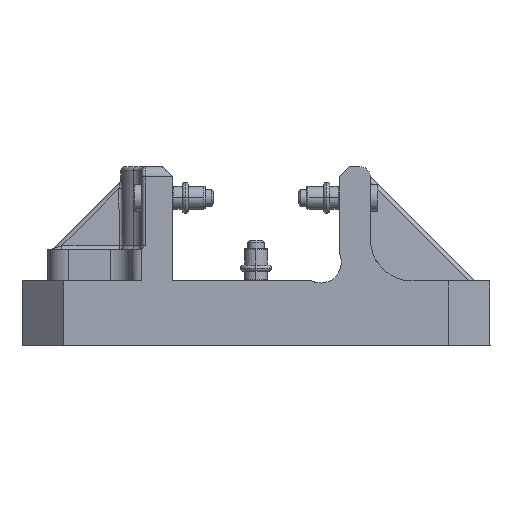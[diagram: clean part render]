
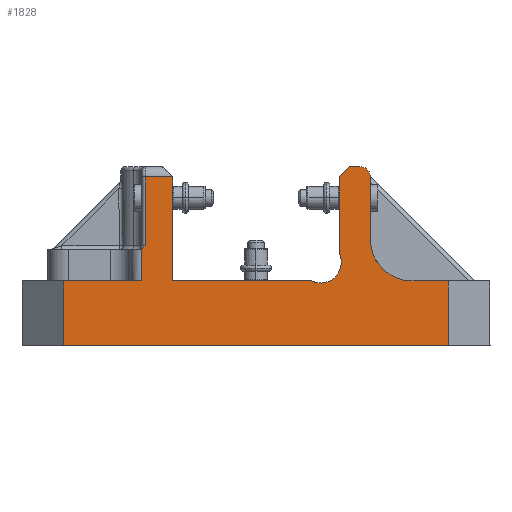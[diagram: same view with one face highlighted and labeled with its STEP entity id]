
A CAD part, front view. The second image highlights one B-rep face of the part: STEP entity #1828.
In plain terms, the highlighted planar face has unit normal (0, -1, 0).
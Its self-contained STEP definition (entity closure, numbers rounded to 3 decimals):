
#1828=ADVANCED_FACE('Solid.1 (  with JELE 19610 : from *SOL200893 - wsp *MASTER -  ) ( Brep from *SOL200893 )',(#4216),#4217,.F.);
#4216=FACE_OUTER_BOUND('',#9212,.T.);
#4217=PLANE('',#9213);
#9212=EDGE_LOOP('',(#14145,#14146,#14147,#14148,#14149,#14150,#14151,#14152,#14153,#14154,#14155,#14156,#14157,#14158,#14159,#14160,#14161,#14162,#14163));
#9213=AXIS2_PLACEMENT_3D('',#14164,#14165,#14166);
#14145=ORIENTED_EDGE('',*,*,#19443,.F.);
#14146=ORIENTED_EDGE('',*,*,#19537,.T.);
#14147=ORIENTED_EDGE('',*,*,#19519,.T.);
#14148=ORIENTED_EDGE('',*,*,#19410,.F.);
#14149=ORIENTED_EDGE('',*,*,#19306,.T.);
#14150=ORIENTED_EDGE('',*,*,#19791,.F.);
#14151=ORIENTED_EDGE('',*,*,#20270,.F.);
#14152=ORIENTED_EDGE('',*,*,#20280,.T.);
#14153=ORIENTED_EDGE('',*,*,#20282,.T.);
#14154=ORIENTED_EDGE('',*,*,#19978,.T.);
#14155=ORIENTED_EDGE('',*,*,#19977,.T.);
#14156=ORIENTED_EDGE('',*,*,#19497,.T.);
#14157=ORIENTED_EDGE('',*,*,#19340,.T.);
#14158=ORIENTED_EDGE('',*,*,#19269,.T.);
#14159=ORIENTED_EDGE('',*,*,#19325,.F.);
#14160=ORIENTED_EDGE('',*,*,#19494,.F.);
#14161=ORIENTED_EDGE('',*,*,#19467,.F.);
#14162=ORIENTED_EDGE('',*,*,#19461,.T.);
#14163=ORIENTED_EDGE('',*,*,#19449,.T.);
#14164=CARTESIAN_POINT('',(0.,-157.5,132.0));
#14165=DIRECTION('',(0.0,1.0,0.0));
#14166=DIRECTION('',(0.0,0.0,-1.0));
#19269=EDGE_CURVE('',#22396,#22397,#22398,.T.);
#19306=EDGE_CURVE('',#22459,#22457,#22460,.T.);
#19325=EDGE_CURVE('',#22491,#22397,#22493,.T.);
#19340=EDGE_CURVE('',#22513,#22396,#22514,.T.);
#19410=EDGE_CURVE('',#22459,#22602,#22603,.F.);
#19443=EDGE_CURVE('',#22645,#22647,#22648,.T.);
#19449=EDGE_CURVE('',#22657,#22647,#22658,.F.);
#19461=EDGE_CURVE('',#22679,#22657,#22680,.T.);
#19467=EDGE_CURVE('',#22679,#22689,#22690,.F.);
#19494=EDGE_CURVE('',#22689,#22491,#22741,.T.);
#19497=EDGE_CURVE('',#22744,#22513,#22745,.T.);
#19519=EDGE_CURVE('',#22786,#22602,#22787,.T.);
#19537=EDGE_CURVE('',#22645,#22786,#22820,.T.);
#19791=EDGE_CURVE('',#23172,#22457,#23175,.T.);
#19977=EDGE_CURVE('',#23451,#22744,#23452,.T.);
#19978=EDGE_CURVE('',#23453,#23451,#23454,.T.);
#20270=EDGE_CURVE('',#23836,#23172,#23838,.T.);
#20280=EDGE_CURVE('',#23836,#23848,#23850,.T.);
#20282=EDGE_CURVE('',#23848,#23453,#23852,.T.);
#22396=VERTEX_POINT('',#27123);
#22397=VERTEX_POINT('',#27124);
#22398=LINE('',#27125,#27126);
#22457=VERTEX_POINT('',#27469);
#22459=VERTEX_POINT('',#27472);
#22460=LINE('',#27473,#27474);
#22491=VERTEX_POINT('',#27510);
#22493=LINE('',#27513,#27514);
#22513=VERTEX_POINT('',#27543);
#22514=LINE('',#27544,#27545);
#22602=VERTEX_POINT('',#27663);
#22603=CIRCLE('',#27664,10.0);
#22645=VERTEX_POINT('',#27715);
#22647=VERTEX_POINT('',#27718);
#22648=LINE('',#27719,#27720);
#22657=VERTEX_POINT('',#27732);
#22658=CIRCLE('',#27733,5.0);
#22679=VERTEX_POINT('',#27763);
#22680=LINE('',#27764,#27765);
#22689=VERTEX_POINT('',#27789);
#22690=CIRCLE('',#27790,20.);
#22741=LINE('',#27858,#27859);
#22744=VERTEX_POINT('',#27863);
#22745=LINE('',#27864,#27865);
#22786=VERTEX_POINT('',#27916);
#22787=LINE('',#27917,#27918);
#22820=LINE('',#27955,#27956);
#23172=VERTEX_POINT('',#28664);
#23175=LINE('',#28668,#28669);
#23451=VERTEX_POINT('',#29202);
#23452=LINE('',#29203,#29204);
#23453=VERTEX_POINT('',#29205);
#23454=LINE('',#29206,#29207);
#23836=VERTEX_POINT('',#30025);
#23838=LINE('',#30027,#30028);
#23848=VERTEX_POINT('',#30039);
#23850=LINE('',#30041,#30042);
#23852=B_SPLINE_CURVE_WITH_KNOTS('',5,(#30044,#30045,#30046,#30047,#30048,#30049),.UNSPECIFIED.,.F.,.F.,(6,6),(0.0,2.588),.UNSPECIFIED.);
#27123=CARTESIAN_POINT('',(-92.5,-157.5,-24.));
#27124=CARTESIAN_POINT('',(92.5,-157.5,-24.));
#27125=CARTESIAN_POINT('',(0.,-157.5,-24.));
#27126=VECTOR('',#33391,1.0);
#27469=CARTESIAN_POINT('',(-40.,-157.5,7.));
#27472=CARTESIAN_POINT('',(26.641,-157.5,7.));
#27473=CARTESIAN_POINT('',(-6.679,-157.5,7.));
#27474=VECTOR('',#33425,1.0);
#27510=CARTESIAN_POINT('',(92.5,-157.5,7.));
#27513=CARTESIAN_POINT('',(92.5,-157.5,-8.5));
#27514=VECTOR('',#33465,1.0);
#27543=CARTESIAN_POINT('',(-92.5,-157.5,7.));
#27544=CARTESIAN_POINT('',(-92.5,-157.5,-8.5));
#27545=VECTOR('',#33475,1.0);
#27663=CARTESIAN_POINT('',(40.,-157.5,20.359));
#27664=AXIS2_PLACEMENT_3D('',#33567,#33568,#33569);
#27715=CARTESIAN_POINT('',(45.,-157.5,62.));
#27718=CARTESIAN_POINT('',(50.,-157.5,62.));
#27719=CARTESIAN_POINT('',(47.5,-157.5,62.));
#27720=VECTOR('',#33613,1.0);
#27732=CARTESIAN_POINT('',(55.,-157.5,57.));
#27733=AXIS2_PLACEMENT_3D('',#33620,#33621,#33622);
#27763=CARTESIAN_POINT('',(55.,-157.5,27.));
#27764=CARTESIAN_POINT('',(55.,-157.5,42.));
#27765=VECTOR('',#33635,1.0);
#27789=CARTESIAN_POINT('',(75.,-157.5,7.));
#27790=AXIS2_PLACEMENT_3D('',#33643,#33644,#33645);
#27858=CARTESIAN_POINT('',(83.75,-157.5,7.));
#27859=VECTOR('',#33687,1.0);
#27863=CARTESIAN_POINT('',(-55.,-157.5,7.));
#27864=CARTESIAN_POINT('',(-73.75,-157.5,7.));
#27865=VECTOR('',#33689,1.0);
#27916=CARTESIAN_POINT('',(40.0,-157.5,57.));
#27917=CARTESIAN_POINT('',(40.0,-157.5,38.679));
#27918=VECTOR('',#33730,1.0);
#27955=CARTESIAN_POINT('',(42.5,-157.5,59.5));
#27956=VECTOR('',#33771,1.0);
#28664=CARTESIAN_POINT('',(-40.,-157.5,57.));
#28668=CARTESIAN_POINT('',(-40.,-157.5,32.));
#28669=VECTOR('',#34033,1.0);
#29202=CARTESIAN_POINT('',(-55.,-157.5,22.));
#29203=CARTESIAN_POINT('',(-55.,-157.5,34.5));
#29204=VECTOR('',#34272,1.0);
#29205=CARTESIAN_POINT('',(-55.,-157.5,22.379));
#29206=CARTESIAN_POINT('',(-55.,-157.5,34.5));
#29207=VECTOR('',#34273,1.0);
#30025=CARTESIAN_POINT('',(-53.,-157.5,57.));
#30027=CARTESIAN_POINT('',(-46.5,-157.5,57.));
#30028=VECTOR('',#34475,1.0);
#30039=CARTESIAN_POINT('',(-53.,-157.5,24.));
#30041=CARTESIAN_POINT('',(-53.,-157.5,40.5));
#30042=VECTOR('',#34489,1.0);
#30044=CARTESIAN_POINT('',(-53.,-157.5,24.));
#30045=CARTESIAN_POINT('',(-53.365,-157.5,23.632));
#30046=CARTESIAN_POINT('',(-53.737,-157.5,23.267));
#30047=CARTESIAN_POINT('',(-54.115,-157.5,22.92));
#30048=CARTESIAN_POINT('',(-54.542,-157.5,22.613));
#30049=CARTESIAN_POINT('',(-55.,-157.5,22.379));
#33391=DIRECTION('',(1.0,0.0,0.0));
#33425=DIRECTION('',(-1.0,0.0,0.0));
#33465=DIRECTION('',(0.0,0.0,-1.0));
#33475=DIRECTION('',(0.0,0.0,-1.0));
#33567=CARTESIAN_POINT('',(31.,-157.5,16.));
#33568=DIRECTION('',(0.0,1.0,0.0));
#33569=DIRECTION('',(0.0,0.0,-1.0));
#33613=DIRECTION('',(1.0,0.0,0.0));
#33620=CARTESIAN_POINT('',(50.,-157.5,57.));
#33621=DIRECTION('',(0.0,1.0,0.0));
#33622=DIRECTION('',(0.0,0.0,-1.0));
#33635=DIRECTION('',(0.0,0.0,1.0));
#33643=CARTESIAN_POINT('',(75.,-157.5,27.));
#33644=DIRECTION('',(0.0,1.0,0.0));
#33645=DIRECTION('',(0.0,0.0,-1.0));
#33687=DIRECTION('',(1.0,0.0,0.0));
#33689=DIRECTION('',(-1.0,0.0,0.0));
#33730=DIRECTION('',(0.0,0.0,-1.0));
#33771=DIRECTION('',(-0.707,0.0,-0.707));
#34033=DIRECTION('',(0.,0.0,-1.0));
#34272=DIRECTION('',(0.,0.0,-1.0));
#34273=DIRECTION('',(0.,0.0,-1.0));
#34475=DIRECTION('',(1.0,0.0,0.));
#34489=DIRECTION('',(0.,0.0,-1.0));
